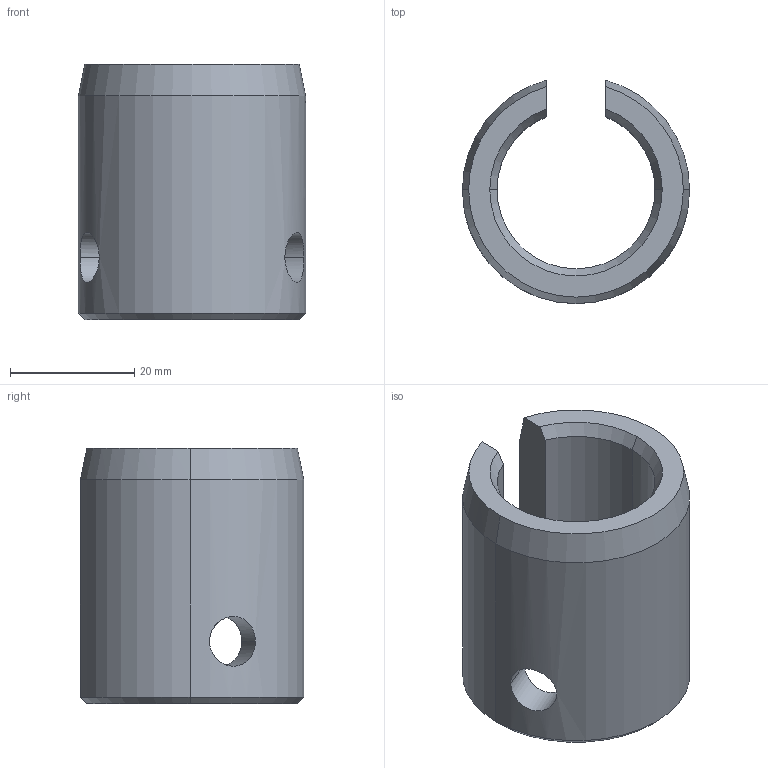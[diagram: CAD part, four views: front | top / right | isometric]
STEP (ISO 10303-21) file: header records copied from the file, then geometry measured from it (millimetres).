
FILE_DESCRIPTION (( 'STEP AP203' ), '1' );
FILE_NAME ('KBSH053P16.STEP', '2023-08-01T05:18:55', ( '' ), ( '' ), 'SwSTEP 2.0', 'SolidWorks 2017', '' );
FILE_SCHEMA (( 'CONFIG_CONTROL_DESIGN' ));
Length unit declared in the file: millimetre
Products named in the file (1): KBSH053P16
Bounding box: 36.51 x 35.88 x 41 mm (x, y, z)
Volume: 18902.6 mm3; surface area: 8421.1 mm2
Topology: 1 solids, 1 shells, 26 faces, 64 edges, 40 vertices
Faces by surface type: cone 12, cylinder 10, plane 4
Entity records: 1105 total; most frequent: CARTESIAN_POINT 415, ORIENTED_EDGE 128, DIRECTION 126, EDGE_CURVE 64, AXIS2_PLACEMENT_3D 51, VERTEX_POINT 40, EDGE_LOOP 30, ADVANCED_FACE 26
